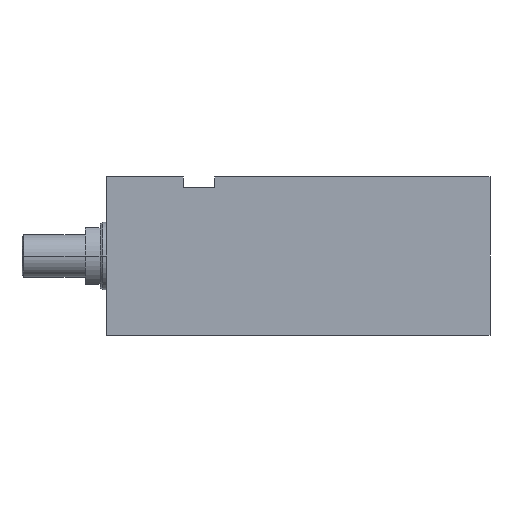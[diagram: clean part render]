
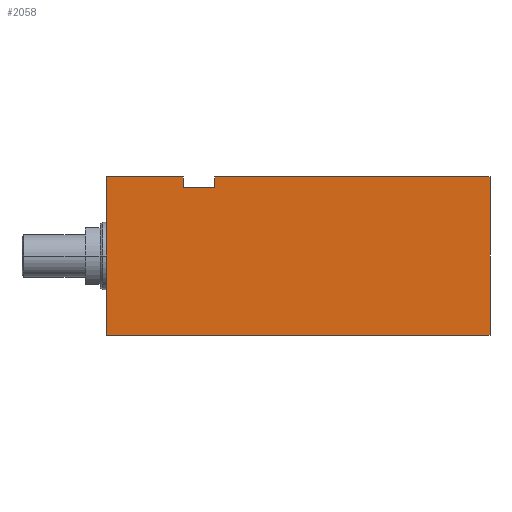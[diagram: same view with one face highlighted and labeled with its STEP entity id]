
A CAD part, left-side view. The second image highlights one B-rep face of the part: STEP entity #2058.
In plain terms, the highlighted planar face has unit normal (-1, 0, 0).
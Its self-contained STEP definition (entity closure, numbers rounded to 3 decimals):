
#13 = LINE ( 'NONE', #1464, #1910 ) ;
#42 = ORIENTED_EDGE ( 'NONE', *, *, #244, .F. ) ;
#110 = CARTESIAN_POINT ( 'NONE',  ( -50., 182., -37.5 ) ) ;
#179 = VERTEX_POINT ( 'NONE', #2043 ) ;
#215 = EDGE_CURVE ( 'NONE', #2331, #1090, #1068, .T. ) ;
#244 = EDGE_CURVE ( 'NONE', #179, #2470, #1531, .T. ) ;
#349 = VERTEX_POINT ( 'NONE', #2426 ) ;
#434 = EDGE_CURVE ( 'NONE', #785, #179, #2242, .T. ) ;
#536 = EDGE_CURVE ( 'NONE', #785, #349, #2093, .T. ) ;
#577 = EDGE_CURVE ( 'NONE', #2068, #349, #2022, .T. ) ;
#609 = ORIENTED_EDGE ( 'NONE', *, *, #1695, .T. ) ;
#691 = CARTESIAN_POINT ( 'NONE',  ( -50., 182., 37.5 ) ) ;
#697 = ORIENTED_EDGE ( 'NONE', *, *, #536, .T. ) ;
#704 = DIRECTION ( 'NONE',  ( 0., 0., -1. ) ) ;
#707 = DIRECTION ( 'NONE',  ( 1., 0., 0. ) ) ;
#712 = CARTESIAN_POINT ( 'NONE',  ( -50., 82., -37.5 ) ) ;
#715 = PLANE ( 'NONE',  #1471 ) ;
#735 = CARTESIAN_POINT ( 'NONE',  ( -50., 145.5, 32.5 ) ) ;
#785 = VERTEX_POINT ( 'NONE', #735 ) ;
#798 = VECTOR ( 'NONE', #2816, 1000. ) ;
#878 = VECTOR ( 'NONE', #2775, 1000. ) ;
#889 = EDGE_LOOP ( 'NONE', ( #1418, #42, #1351, #697, #3111, #1866, #1275, #609 ) ) ;
#944 = DIRECTION ( 'NONE',  ( 0., 0., 1. ) ) ;
#951 = CARTESIAN_POINT ( 'NONE',  ( -50., 182., -37.5 ) ) ;
#1019 = FACE_OUTER_BOUND ( 'NONE', #889, .T. ) ;
#1068 = LINE ( 'NONE', #2115, #2205 ) ;
#1090 = VERTEX_POINT ( 'NONE', #3057 ) ;
#1117 = VERTEX_POINT ( 'NONE', #3097 ) ;
#1275 = ORIENTED_EDGE ( 'NONE', *, *, #215, .T. ) ;
#1351 = ORIENTED_EDGE ( 'NONE', *, *, #434, .F. ) ;
#1418 = ORIENTED_EDGE ( 'NONE', *, *, #1466, .F. ) ;
#1428 = LINE ( 'NONE', #2460, #1945 ) ;
#1442 = DIRECTION ( 'NONE',  ( 0., -1., 0. ) ) ;
#1464 = CARTESIAN_POINT ( 'NONE',  ( -50., 82., 37.5 ) ) ;
#1466 = EDGE_CURVE ( 'NONE', #2470, #1117, #13, .T. ) ;
#1471 = AXIS2_PLACEMENT_3D ( 'NONE', #712, #707, #704 ) ;
#1531 = LINE ( 'NONE', #2248, #2823 ) ;
#1695 = EDGE_CURVE ( 'NONE', #1090, #1117, #1428, .T. ) ;
#1839 = LINE ( 'NONE', #951, #3008 ) ;
#1866 = ORIENTED_EDGE ( 'NONE', *, *, #1961, .F. ) ;
#1910 = VECTOR ( 'NONE', #1442, 1000. ) ;
#1945 = VECTOR ( 'NONE', #2522, 1000. ) ;
#1961 = EDGE_CURVE ( 'NONE', #2331, #2068, #1839, .T. ) ;
#2022 = LINE ( 'NONE', #2786, #798 ) ;
#2043 = CARTESIAN_POINT ( 'NONE',  ( -50., 130.5, 32.5 ) ) ;
#2058 = ADVANCED_FACE ( 'NONE', ( #1019 ), #715, .F. ) ;
#2068 = VERTEX_POINT ( 'NONE', #691 ) ;
#2093 = LINE ( 'NONE', #2778, #878 ) ;
#2115 = CARTESIAN_POINT ( 'NONE',  ( -50., 82., -37.5 ) ) ;
#2171 = DIRECTION ( 'NONE',  ( 0., -1., 0. ) ) ;
#2205 = VECTOR ( 'NONE', #2171, 1000. ) ;
#2242 = LINE ( 'NONE', #2640, #2465 ) ;
#2248 = CARTESIAN_POINT ( 'NONE',  ( -50., 130.5, 32.5 ) ) ;
#2250 = DIRECTION ( 'NONE',  ( 0., 0., 1. ) ) ;
#2331 = VERTEX_POINT ( 'NONE', #110 ) ;
#2355 = CARTESIAN_POINT ( 'NONE',  ( -50., 130.5, 37.5 ) ) ;
#2426 = CARTESIAN_POINT ( 'NONE',  ( -50., 145.5, 37.5 ) ) ;
#2460 = CARTESIAN_POINT ( 'NONE',  ( -50., 0., -37.5 ) ) ;
#2465 = VECTOR ( 'NONE', #2652, 1000. ) ;
#2470 = VERTEX_POINT ( 'NONE', #2355 ) ;
#2522 = DIRECTION ( 'NONE',  ( 0., 0., 1. ) ) ;
#2640 = CARTESIAN_POINT ( 'NONE',  ( -50., 145.5, 32.5 ) ) ;
#2652 = DIRECTION ( 'NONE',  ( 0., -1., 0. ) ) ;
#2775 = DIRECTION ( 'NONE',  ( 0., 0., 1. ) ) ;
#2778 = CARTESIAN_POINT ( 'NONE',  ( -50., 145.5, 32.5 ) ) ;
#2786 = CARTESIAN_POINT ( 'NONE',  ( -50., 82., 37.5 ) ) ;
#2816 = DIRECTION ( 'NONE',  ( 0., -1., 0. ) ) ;
#2823 = VECTOR ( 'NONE', #2250, 1000. ) ;
#3008 = VECTOR ( 'NONE', #944, 1000. ) ;
#3057 = CARTESIAN_POINT ( 'NONE',  ( -50., 0., -37.5 ) ) ;
#3097 = CARTESIAN_POINT ( 'NONE',  ( -50., 0., 37.5 ) ) ;
#3111 = ORIENTED_EDGE ( 'NONE', *, *, #577, .F. ) ;
